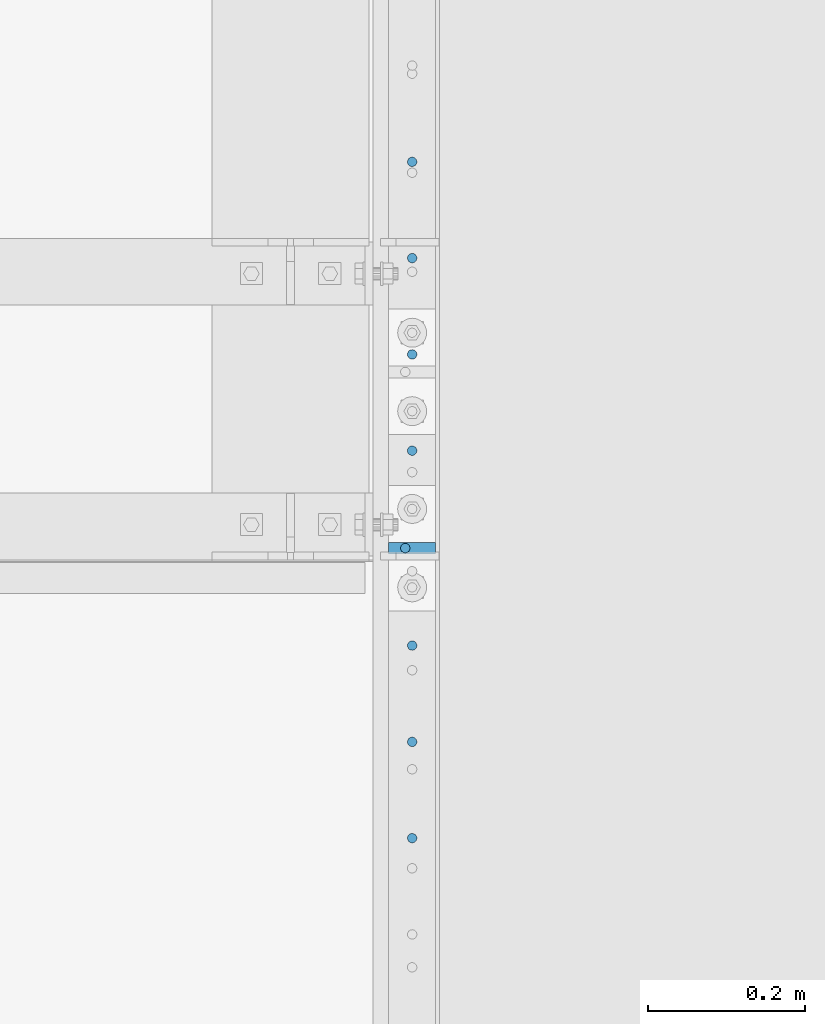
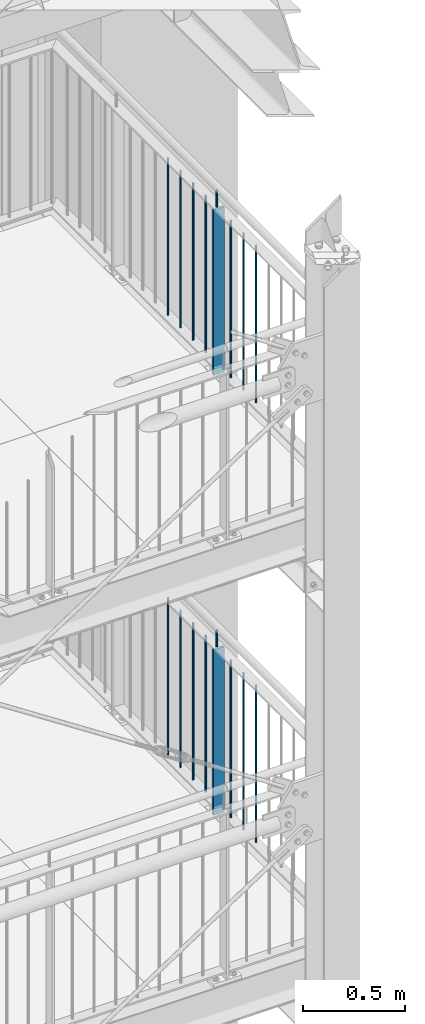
# One storey, part 98 of 825: 18 columns.
"""IFC2X3 building model written with IfcOpenShell, lengths in millimetres."""

from ifc_helpers import new_model, entity, si_unit, converted_unit, frame, origin, origin_with_axes, origin_2d, place, context, project, spatial, rectangle, circle, extrude, clip, halfspace, material, element, save


model = new_model("IFC2X3")

# Units and contexts
model_context = context("Model", 3, precision=1e-09, world=origin_with_axes())
ifc_project = project(units=[si_unit("LENGTHUNIT", "METRE", prefix="MILLI"), si_unit("AREAUNIT", "SQUARE_METRE"), si_unit("VOLUMEUNIT", "CUBIC_METRE"), converted_unit("PLANEANGLEUNIT", "DEGREE", entity("IfcPlaneAngleMeasure", 0.01745329), si_unit("PLANEANGLEUNIT", "RADIAN"), dimensions=[0, 0, 0, 0, 0, 0, 0])], contexts=[model_context])

# Site, building, storey
site_placement = place(None, origin_with_axes())
site = spatial("IfcSite", under=ifc_project, at=site_placement, Name="Cnopf'sche Kinderklinik", CompositionType="ELEMENT")
building_placement = place(site_placement, origin_with_axes())
building = spatial("IfcBuilding", under=site, at=building_placement, Name="Struktur 1", CompositionType="ELEMENT")
storey_placement = place(building_placement, origin_with_axes())
storey = spatial("IfcBuildingStorey", under=building, at=storey_placement, Name="Default Storey", CompositionType="ELEMENT", Elevation=0.0)

# Columns
ifc_material = material(Name="S235JR")
column_1_placement = place(None, frame((9021.713402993, 5751.736114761, 9675.723292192), z_axis=(0.0, 0.0, 1.0), x_axis=(0.0, -1.0, 0.0)))
element("IfcColumn", 1, at=column_1_placement, inside=storey, material=ifc_material, Name="Railing_Post_Landing#6", ObjectType="Railing_Post_Landing#6", context=model_context, shape_type="Clipping", body=[
    clip(clip(extrude(rectangle(XDim=15.0, YDim=60.0, at=origin_2d()), origin(), (0.0, 0.0, -1.0), 1070.646584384), halfspace(frame((5751.73611476, -9021.713402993, -1019.722292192), z_axis=(0.0, 0.0, 1.0), x_axis=(0.0, 1.0, 0.0)), True)), halfspace(frame((5751.73611476, -9021.713402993, -30.924292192), z_axis=(0.0, 0.0, -1.0), x_axis=(0.0, -1.0, 0.0)), True)),
])
column_2_placement = place(None, frame((9021.713402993, 6244.236186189, 9658.285281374), z_axis=(0.0, 0.0, 1.0), x_axis=(0.0, -1.0, 0.0)))
element("IfcColumn", 2, at=column_2_placement, inside=storey, material=ifc_material, Name="Railing_Picket_Landing#38", ObjectType="Railing_Picket_Landing#38", context=model_context, shape_type="Clipping", body=[
    clip(clip(extrude(circle(Radius=6.0, at=origin_2d()), origin(), (0.0, 0.0, -1.0), 965.770562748), halfspace(frame((6244.236186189, -9021.713402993, -13.486281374), z_axis=(0.0, 0.0, -1.0), x_axis=(0.0, -1.0, 0.0)), True)), halfspace(frame((6244.236186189, -9021.713402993, -952.284281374), z_axis=(0.0, 0.0, 1.0), x_axis=(0.0, 1.0, 0.0)), True)),
])
column_3_placement = place(None, frame((9021.713402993, 6121.48616238, 9658.285281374), z_axis=(0.0, 0.0, 1.0), x_axis=(0.0, -1.0, 0.0)))
element("IfcColumn", 3, at=column_3_placement, inside=storey, material=ifc_material, Name="Railing_Picket_Landing#39", ObjectType="Railing_Picket_Landing#39", context=model_context, shape_type="Clipping", body=[
    clip(clip(extrude(circle(Radius=6.0, at=origin_2d()), origin(), (0.0, 0.0, -1.0), 965.770562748), halfspace(frame((6121.48616238, -9021.713402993, -13.486281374), z_axis=(0.0, 0.0, -1.0), x_axis=(0.0, -1.0, 0.0)), True)), halfspace(frame((6121.48616238, -9021.713402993, -952.284281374), z_axis=(0.0, 0.0, 1.0), x_axis=(0.0, 1.0, 0.0)), True)),
])
column_4_placement = place(None, frame((9021.713402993, 5998.73613857, 9658.285281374), z_axis=(0.0, 0.0, 1.0), x_axis=(0.0, -1.0, 0.0)))
element("IfcColumn", 4, at=column_4_placement, inside=storey, material=ifc_material, Name="Railing_Picket_Landing#40", ObjectType="Railing_Picket_Landing#40", context=model_context, shape_type="Clipping", body=[
    clip(clip(extrude(circle(Radius=6.0, at=origin_2d()), origin(), (0.0, 0.0, -1.0), 965.770562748), halfspace(frame((5998.73613857, -9021.713402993, -13.486281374), z_axis=(0.0, 0.0, -1.0), x_axis=(0.0, -1.0, 0.0)), True)), halfspace(frame((5998.73613857, -9021.713402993, -952.284281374), z_axis=(0.0, 0.0, 1.0), x_axis=(0.0, 1.0, 0.0)), True)),
])
column_5_placement = place(None, frame((9021.713402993, 5875.986114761, 9658.285281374), z_axis=(0.0, 0.0, 1.0), x_axis=(0.0, -1.0, 0.0)))
element("IfcColumn", 5, at=column_5_placement, inside=storey, material=ifc_material, Name="Railing_Picket_Landing#41", ObjectType="Railing_Picket_Landing#41", context=model_context, shape_type="Clipping", body=[
    clip(clip(extrude(circle(Radius=6.0, at=origin_2d()), origin(), (0.0, 0.0, -1.0), 965.770562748), halfspace(frame((5875.986114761, -9021.713402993, -13.486281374), z_axis=(0.0, 0.0, -1.0), x_axis=(0.0, -1.0, 0.0)), True)), halfspace(frame((5875.986114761, -9021.713402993, -952.284281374), z_axis=(0.0, 0.0, 1.0), x_axis=(0.0, 1.0, 0.0)), True)),
])
column_6_placement = place(None, frame((9021.713402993, 5627.486114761, 9658.285281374), z_axis=(0.0, 0.0, 1.0), x_axis=(0.0, -1.0, 0.0)))
element("IfcColumn", 6, at=column_6_placement, inside=storey, material=ifc_material, Name="Railing_Picket_Landing#42", ObjectType="Railing_Picket_Landing#42", context=model_context, shape_type="Clipping", body=[
    clip(clip(extrude(circle(Radius=6.0, at=origin_2d()), origin(), (0.0, 0.0, -1.0), 965.770562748), halfspace(frame((5627.48611476, -9021.713402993, -13.486281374), z_axis=(0.0, 0.0, -1.0), x_axis=(0.0, -1.0, 0.0)), True)), halfspace(frame((5627.48611476, -9021.713402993, -952.284281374), z_axis=(0.0, 0.0, 1.0), x_axis=(0.0, 1.0, 0.0)), True)),
])
column_7_placement = place(None, frame((9021.713402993, 5504.736090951, 9658.285281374), z_axis=(0.0, 0.0, 1.0), x_axis=(0.0, -1.0, 0.0)))
element("IfcColumn", 7, at=column_7_placement, inside=storey, material=ifc_material, Name="Railing_Picket_Landing#43", ObjectType="Railing_Picket_Landing#43", context=model_context, shape_type="Clipping", body=[
    clip(clip(extrude(circle(Radius=6.0, at=origin_2d()), origin(), (0.0, 0.0, -1.0), 965.770562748), halfspace(frame((5504.736090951, -9021.713402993, -13.486281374), z_axis=(0.0, 0.0, -1.0), x_axis=(0.0, -1.0, 0.0)), True)), halfspace(frame((5504.736090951, -9021.713402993, -952.284281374), z_axis=(0.0, 0.0, 1.0), x_axis=(0.0, 1.0, 0.0)), True)),
])
column_8_placement = place(None, frame((9021.713402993, 5381.986067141, 9658.285281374), z_axis=(0.0, 0.0, 1.0), x_axis=(0.0, -1.0, 0.0)))
element("IfcColumn", 8, at=column_8_placement, inside=storey, material=ifc_material, Name="Railing_Picket_Landing#44", ObjectType="Railing_Picket_Landing#44", context=model_context, shape_type="Clipping", body=[
    clip(clip(extrude(circle(Radius=6.0, at=origin_2d()), origin(), (0.0, 0.0, -1.0), 965.770562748), halfspace(frame((5381.986067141, -9021.713402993, -13.486281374), z_axis=(0.0, 0.0, -1.0), x_axis=(0.0, -1.0, 0.0)), True)), halfspace(frame((5381.986067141, -9021.713402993, -952.284281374), z_axis=(0.0, 0.0, 1.0), x_axis=(0.0, 1.0, 0.0)), True)),
])
column_9_placement = place(None, frame((9012.913402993, 5751.736114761, 9763.285281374), z_axis=(0.0, 0.0, 1.0), x_axis=(-1.0, 0.0, 0.0)))
element("IfcColumn", 9, at=column_9_placement, inside=storey, material=ifc_material, Name="Bar#6", ObjectType="Bar#6", context=model_context, shape_type="Clipping", body=[
    clip(clip(extrude(circle(Radius=6.0, at=origin_2d()), origin(), (0.0, 0.0, -1.0), 116.970562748), halfspace(frame((9012.913402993, 5751.73611476, -8.486281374), z_axis=(0.0, 0.0, -1.0), x_axis=(1.0, 0.0, 0.0)), True)), halfspace(frame((9012.913402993, 5751.73611476, -108.484281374), z_axis=(0.0, 0.0, 1.0), x_axis=(-1.0, 0.0, 0.0)), True)),
])
column_10_placement = place(None, frame((9021.713402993, 5751.736114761, 12305.223292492), z_axis=(0.0, 0.0, 1.0), x_axis=(0.0, -1.0, 0.0)))
element("IfcColumn", 10, at=column_10_placement, inside=storey, material=ifc_material, Name="Railing_Post_Landing#6", ObjectType="Railing_Post_Landing#6", context=model_context, shape_type="Clipping", body=[
    clip(clip(extrude(rectangle(XDim=15.0, YDim=60.0, at=origin_2d()), origin(), (0.0, 0.0, -1.0), 1070.646584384), halfspace(frame((5751.736114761, -9021.713402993, -1019.722292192), z_axis=(0.0, 0.0, 1.0), x_axis=(0.0, 1.0, 0.0)), True)), halfspace(frame((5751.736114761, -9021.713402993, -30.924292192), z_axis=(0.0, 0.0, -1.0), x_axis=(0.0, -1.0, 0.0)), True)),
])
column_11_placement = place(None, frame((9021.713402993, 6244.236186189, 12287.785281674), z_axis=(0.0, 0.0, 1.0), x_axis=(0.0, -1.0, 0.0)))
element("IfcColumn", 11, at=column_11_placement, inside=storey, material=ifc_material, Name="Railing_Picket_Landing#38", ObjectType="Railing_Picket_Landing#38", context=model_context, shape_type="Clipping", body=[
    clip(clip(extrude(circle(Radius=6.0, at=origin_2d()), origin(), (0.0, 0.0, -1.0), 965.770562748), halfspace(frame((6244.236186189, -9021.713402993, -13.486281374), z_axis=(0.0, 0.0, -1.0), x_axis=(0.0, -1.0, 0.0)), True)), halfspace(frame((6244.236186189, -9021.713402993, -952.284281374), z_axis=(0.0, 0.0, 1.0), x_axis=(0.0, 1.0, 0.0)), True)),
])
column_12_placement = place(None, frame((9021.713402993, 6121.48616238, 12287.785281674), z_axis=(0.0, 0.0, 1.0), x_axis=(0.0, -1.0, 0.0)))
element("IfcColumn", 12, at=column_12_placement, inside=storey, material=ifc_material, Name="Railing_Picket_Landing#39", ObjectType="Railing_Picket_Landing#39", context=model_context, shape_type="Clipping", body=[
    clip(clip(extrude(circle(Radius=6.0, at=origin_2d()), origin(), (0.0, 0.0, -1.0), 965.770562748), halfspace(frame((6121.48616238, -9021.713402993, -13.486281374), z_axis=(0.0, 0.0, -1.0), x_axis=(0.0, -1.0, 0.0)), True)), halfspace(frame((6121.48616238, -9021.713402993, -952.284281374), z_axis=(0.0, 0.0, 1.0), x_axis=(0.0, 1.0, 0.0)), True)),
])
column_13_placement = place(None, frame((9021.713402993, 5998.73613857, 12287.785281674), z_axis=(0.0, 0.0, 1.0), x_axis=(0.0, -1.0, 0.0)))
element("IfcColumn", 13, at=column_13_placement, inside=storey, material=ifc_material, Name="Railing_Picket_Landing#40", ObjectType="Railing_Picket_Landing#40", context=model_context, shape_type="Clipping", body=[
    clip(clip(extrude(circle(Radius=6.0, at=origin_2d()), origin(), (0.0, 0.0, -1.0), 965.770562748), halfspace(frame((5998.73613857, -9021.713402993, -13.486281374), z_axis=(0.0, 0.0, -1.0), x_axis=(0.0, -1.0, 0.0)), True)), halfspace(frame((5998.73613857, -9021.713402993, -952.284281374), z_axis=(0.0, 0.0, 1.0), x_axis=(0.0, 1.0, 0.0)), True)),
])
column_14_placement = place(None, frame((9021.713402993, 5875.986114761, 12287.785281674), z_axis=(0.0, 0.0, 1.0), x_axis=(0.0, -1.0, 0.0)))
element("IfcColumn", 14, at=column_14_placement, inside=storey, material=ifc_material, Name="Railing_Picket_Landing#41", ObjectType="Railing_Picket_Landing#41", context=model_context, shape_type="Clipping", body=[
    clip(clip(extrude(circle(Radius=6.0, at=origin_2d()), origin(), (0.0, 0.0, -1.0), 965.770562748), halfspace(frame((5875.98611476, -9021.713402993, -13.486281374), z_axis=(0.0, 0.0, -1.0), x_axis=(0.0, -1.0, 0.0)), True)), halfspace(frame((5875.98611476, -9021.713402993, -952.284281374), z_axis=(0.0, 0.0, 1.0), x_axis=(0.0, 1.0, 0.0)), True)),
])
column_15_placement = place(None, frame((9021.713402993, 5627.486114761, 12287.785281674), z_axis=(0.0, 0.0, 1.0), x_axis=(0.0, -1.0, 0.0)))
element("IfcColumn", 15, at=column_15_placement, inside=storey, material=ifc_material, Name="Railing_Picket_Landing#42", ObjectType="Railing_Picket_Landing#42", context=model_context, shape_type="Clipping", body=[
    clip(clip(extrude(circle(Radius=6.0, at=origin_2d()), origin(), (0.0, 0.0, -1.0), 965.770562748), halfspace(frame((5627.48611476, -9021.713402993, -13.486281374), z_axis=(0.0, 0.0, -1.0), x_axis=(0.0, -1.0, 0.0)), True)), halfspace(frame((5627.48611476, -9021.713402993, -952.284281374), z_axis=(0.0, 0.0, 1.0), x_axis=(0.0, 1.0, 0.0)), True)),
])
column_16_placement = place(None, frame((9021.713402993, 5504.736090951, 12287.785281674), z_axis=(0.0, 0.0, 1.0), x_axis=(0.0, -1.0, 0.0)))
element("IfcColumn", 16, at=column_16_placement, inside=storey, material=ifc_material, Name="Railing_Picket_Landing#43", ObjectType="Railing_Picket_Landing#43", context=model_context, shape_type="Clipping", body=[
    clip(clip(extrude(circle(Radius=6.0, at=origin_2d()), origin(), (0.0, 0.0, -1.0), 965.770562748), halfspace(frame((5504.736090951, -9021.713402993, -13.486281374), z_axis=(0.0, 0.0, -1.0), x_axis=(0.0, -1.0, 0.0)), True)), halfspace(frame((5504.736090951, -9021.713402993, -952.284281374), z_axis=(0.0, 0.0, 1.0), x_axis=(0.0, 1.0, 0.0)), True)),
])
column_17_placement = place(None, frame((9021.713402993, 5381.986067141, 12287.785281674), z_axis=(0.0, 0.0, 1.0), x_axis=(0.0, -1.0, 0.0)))
element("IfcColumn", 17, at=column_17_placement, inside=storey, material=ifc_material, Name="Railing_Picket_Landing#44", ObjectType="Railing_Picket_Landing#44", context=model_context, shape_type="Clipping", body=[
    clip(clip(extrude(circle(Radius=6.0, at=origin_2d()), origin(), (0.0, 0.0, -1.0), 965.770562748), halfspace(frame((5381.986067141, -9021.713402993, -13.486281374), z_axis=(0.0, 0.0, -1.0), x_axis=(0.0, -1.0, 0.0)), True)), halfspace(frame((5381.986067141, -9021.713402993, -952.284281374), z_axis=(0.0, 0.0, 1.0), x_axis=(0.0, 1.0, 0.0)), True)),
])
column_18_placement = place(None, frame((9012.913402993, 5751.736114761, 12392.785281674), z_axis=(0.0, 0.0, 1.0), x_axis=(-1.0, 0.0, 0.0)))
element("IfcColumn", 18, at=column_18_placement, inside=storey, material=ifc_material, Name="Bar#6", ObjectType="Bar#6", context=model_context, shape_type="Clipping", body=[
    clip(clip(extrude(circle(Radius=6.0, at=origin_2d()), origin(), (0.0, 0.0, -1.0), 116.970562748), halfspace(frame((9012.913402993, 5751.736114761, -8.486281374), z_axis=(0.0, 0.0, -1.0), x_axis=(1.0, 0.0, 0.0)), True)), halfspace(frame((9012.913402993, 5751.736114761, -108.484281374), z_axis=(0.0, 0.0, 1.0), x_axis=(-1.0, 0.0, 0.0)), True)),
])

save(model, "model.ifc")
